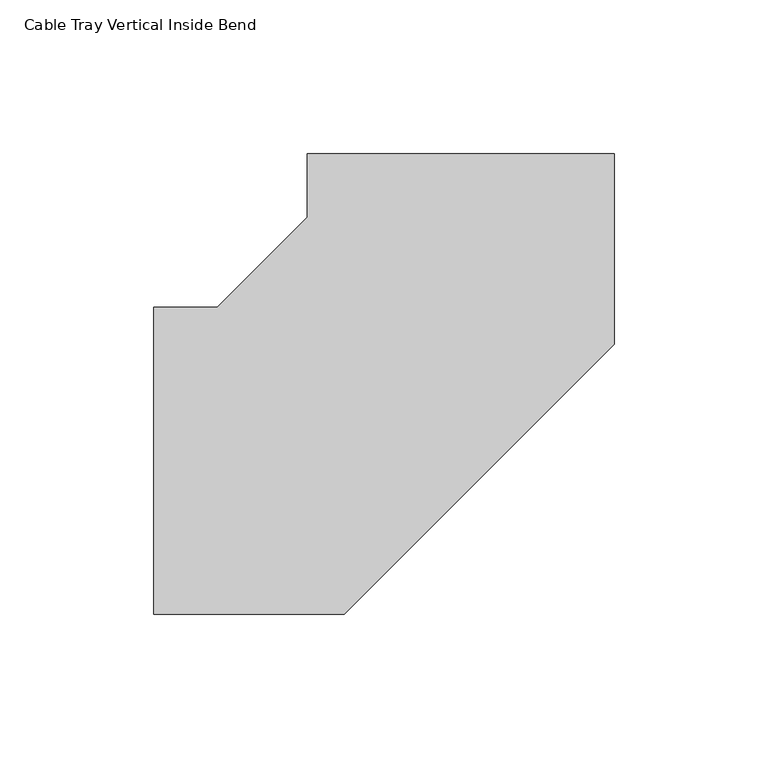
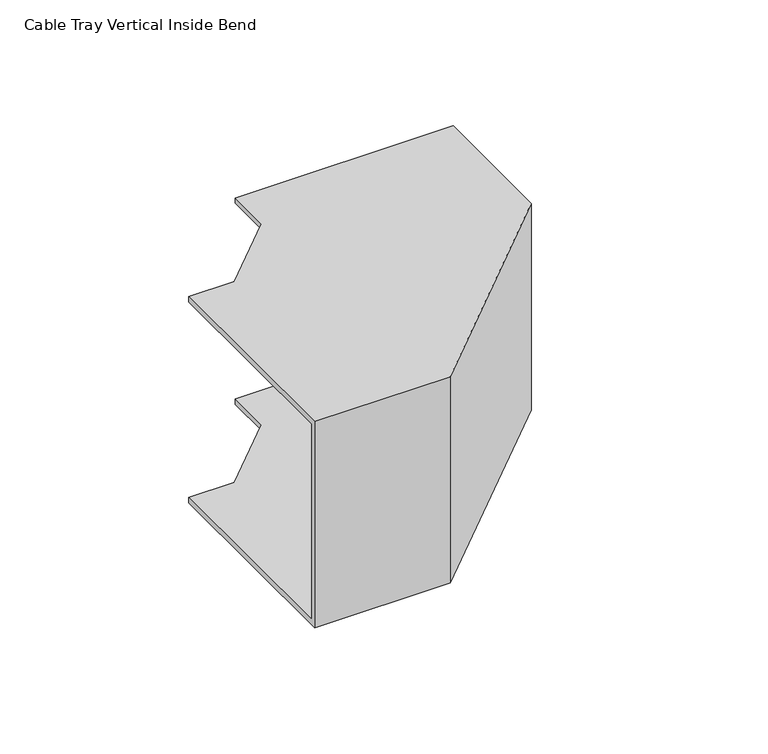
"""IFC4 building model written with IfcOpenShell, lengths in millimetres: cable carrier fitting geometry, Cable Tray Vertical Inside Bend : ELEC_ELV_TKG_N2402."""

from ifc_helpers import new_model, si_unit, origin, place, context, project, spatial, faceted_brep, source, transform, mapped, element, save


def cable_tray_vertical_inside_bend_ac1c3109(model_context):
    return source(origin(), model_context, "Body", "Brep", [
        faceted_brep([(-99.9953529, 50.0, 50.0), (-99.9953529, 50.0, 47.46), (-99.9953529, -47.46, 47.46), (-99.9953529, -47.46, -47.46), (-99.9953529, 50.0, -47.46), (-99.9953529, 50.0, -50.0), (-99.9953529, -50.0, -50.0), (-99.9953529, -50.0, 50.0), (-49.995353, 99.9976764, 50.0), (50.0046469, 99.9930292, 50.0), (50.0046469, 99.9930292, -50.0), (-49.995353, 99.9976764, -50.0), (-49.995353, 99.9976764, -47.46), (47.4646469, 99.9931473, -47.46), (47.4646469, 99.9931473, 47.46), (-49.995353, 99.9976764, 47.46), (-79.2853554, 50.0, 50.0), (-79.2853554, 50.0, 47.46), (-49.9963154, 79.2876789, 47.46), (47.4618085, 38.9152225, 47.46), (-38.9174281, -47.46, 47.46), (-38.9174281, -47.46, -47.46), (47.4618085, 38.9152225, -47.46), (-49.9963154, 79.2876789, -47.46), (-79.2853554, 50.0, -47.46), (-79.2853554, 50.0, -50.0), (-49.9963154, 79.2876789, -50.0), (50.0017596, 37.8630366, -50.0), (-37.8653603, -50.0, -50.0), (-37.8653603, -50.0, 50.0), (50.0017596, 37.8630366, 50.0), (-49.9963154, 79.2876789, 50.0)], [[[0, 1, 2, 3, 4, 5, 6, 7]], [[8, 9, 10, 11, 12, 13, 14, 15]], [[1, 0, 16, 17]], [[2, 1, 17, 18, 15, 14, 19, 20]], [[3, 2, 20, 21]], [[4, 3, 21, 22, 13, 12, 23, 24]], [[5, 4, 24, 25]], [[6, 5, 25, 26, 11, 10, 27, 28]], [[7, 6, 28, 29]], [[0, 7, 29, 30, 9, 8, 31, 16]], [[17, 16, 31, 18]], [[21, 20, 19, 22]], [[25, 24, 23, 26]], [[29, 28, 27, 30]], [[18, 31, 8, 15]], [[22, 19, 14, 13]], [[26, 23, 12, 11]], [[30, 27, 10, 9]]]),
    ])


if __name__ == "__main__":
    model = new_model("IFC4")
    model_context = context("Model", 3, world=origin())
    ifc_project = project(units=[si_unit("LENGTHUNIT", "METRE", prefix="MILLI")], contexts=[model_context])
    site = spatial("IfcSite", under=ifc_project)
    building = spatial("IfcBuilding", under=site)
    placement = place(None, origin())
    cable_tray_vertical_inside_bend_shape = cable_tray_vertical_inside_bend_ac1c3109(model_context)
    element("IfcCableCarrierFitting", 1, ObjectType="Cable Tray Vertical Inside Bend : ELEC_ELV_TKG_N2402", at=placement, inside=building, context=model_context, shape_type="MappedRepresentation", body=[
        mapped(cable_tray_vertical_inside_bend_shape, transform((0.0, 0.0, 0.0), x_axis=(1.0, 0.0, 0.0), y_axis=(0.0, 1.0, 0.0), z_axis=(0.0, 0.0, 1.0))),
    ])
    save(model, "model.ifc")
